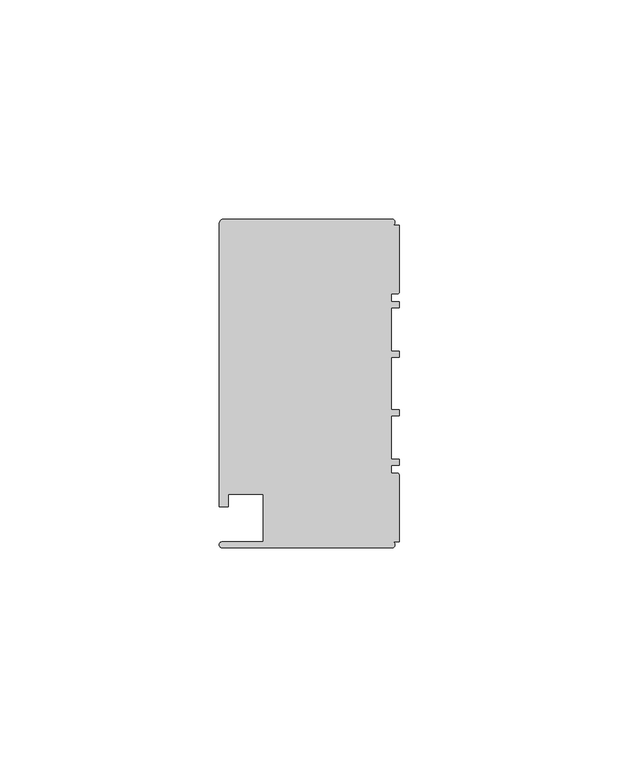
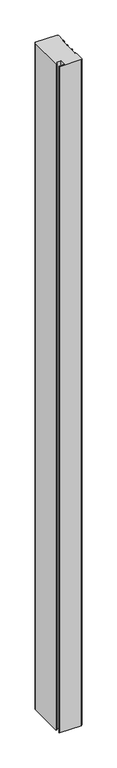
"""IFC4 building model written with IfcOpenShell, lengths in millimetres: member geometry, Прямоугольный импост : 1-AMG-1-Профиль 40Х75 Верх П."""

import ifcopenshell
import ifcopenshell.guid

model = None  # the IFC model being written
_history = None  # IfcOwnerHistory: only IFC2X3 demands one
_inside = {}  # id of a spatial element -> (the spatial element, [elements in it])
_under = {}  # id of a project, library or spatial element -> (it, [spatial elements below it])
_declared = {}  # id of a project -> (the project, [libraries it declares])
_typed = {}  # id of a type object -> (the type object, [elements of that type])
_made_of = {}  # id of a material, layer set ... -> (it, [elements and type objects made of it])


def new_model(schema):
    """Start an empty IFC model of exactly this schema.

    Asked for "IFC4X3", IfcOpenShell would pick the latest addendum, in which some entities
    have other attributes; the version numbers below select the first issue.
    IFC2X3 requires an IfcOwnerHistory on every rooted entity: one is made here for all.
    """
    global model, _history
    if schema == "IFC4X3":
        model = ifcopenshell.file(schema_version=(4, 3, 0, 0))
    else:
        model = ifcopenshell.file(schema=schema)
    _inside.clear()
    _under.clear()
    _declared.clear()
    _typed.clear()
    _made_of.clear()
    _history = None
    if model.schema == "IFC2X3":
        org = make("IfcOrganization", Name="unknown")
        user = make(
            "IfcPersonAndOrganization",
            ThePerson=make("IfcPerson", FamilyName="unknown"),
            TheOrganization=org,
        )
        app = make(
            "IfcApplication",
            ApplicationDeveloper=org,
            Version="unknown",
            ApplicationFullName="unknown",
            ApplicationIdentifier="unknown",
        )
        _history = make(
            "IfcOwnerHistory",
            OwningUser=user,
            OwningApplication=app,
            ChangeAction="ADDED",
            CreationDate=0,
        )
    return model


def make(cls, **values):
    """One entity of the class cls with the attributes given. An attribute that is None is left unset."""
    return model.create_entity(
        cls, **{name: value for name, value in values.items() if value is not None}
    )


def rooted(cls, **values):
    """An entity with a GlobalId (a new one), such as an element, a storey or a relation."""
    return make(cls, GlobalId=ifcopenshell.guid.new(), OwnerHistory=_history, **values)


def si_unit(unit_type, name, prefix=None):
    """IfcSIUnit, for example si_unit("LENGTHUNIT", "METRE", prefix="MILLI")."""
    return make("IfcSIUnit", UnitType=unit_type, Prefix=prefix, Name=name)


def assignment(units):
    """IfcUnitAssignment: the units of a project."""
    return None if units is None else make("IfcUnitAssignment", Units=units)


def point(xyz):
    """IfcCartesianPoint."""
    return None if xyz is None else make("IfcCartesianPoint", Coordinates=xyz)


def direction(xyz):
    """IfcDirection."""
    return None if xyz is None else make("IfcDirection", DirectionRatios=xyz)


def frame(location, z_axis=None, x_axis=None):
    """IfcAxis2Placement3D, a coordinate frame: its origin and axes. An axis left out is left unset."""
    return make(
        "IfcAxis2Placement3D",
        Location=point(location),
        Axis=direction(z_axis),
        RefDirection=direction(x_axis),
    )


def frame_2d(location, x_axis=None):
    """IfcAxis2Placement2D, a coordinate frame in the plane: its origin and x axis."""
    return make(
        "IfcAxis2Placement2D", Location=point(location), RefDirection=direction(x_axis)
    )


def origin():
    """The frame at (0, 0, 0) with its axes left unset."""
    return frame((0.0, 0.0, 0.0))


def place(relative_to, where):
    """IfcLocalPlacement: puts the frame where relative to a parent placement (None: the world)."""
    return make(
        "IfcLocalPlacement", PlacementRelTo=relative_to, RelativePlacement=where
    )


def context(
    kind, dimensions, precision=None, world=None, true_north=None, identifier=None
):
    """IfcGeometricRepresentationContext, for example the 3D "Model" context."""
    return make(
        "IfcGeometricRepresentationContext",
        ContextIdentifier=identifier,
        ContextType=kind,
        CoordinateSpaceDimension=dimensions,
        Precision=precision,
        WorldCoordinateSystem=world,
        TrueNorth=true_north,
    )


def project(units=None, contexts=None):
    """IfcProject with its units and contexts."""
    return rooted(
        "IfcProject",
        Name="project",
        RepresentationContexts=contexts,
        UnitsInContext=assignment(units),
    )


def spatial(cls, under=None, at=None, **own):
    """A site, building, storey or space (cls), placed at a placement, below another one or the project."""
    s = rooted(cls, ObjectPlacement=at, **own)
    if under is not None:
        _under.setdefault(under.id(), (under, []))[1].append(s)
    return s


def polyline(points):
    """IfcPolyline through the points."""
    return make("IfcPolyline", Points=[point(p) for p in points])


def circle_curve(where, radius):
    """IfcCircle in the frame where."""
    return make("IfcCircle", Position=where, Radius=radius)


def trimmed(basis, trim1, trim2, sense, master):
    """IfcTrimmedCurve: the piece of a basis curve between two trims."""
    return make(
        "IfcTrimmedCurve",
        BasisCurve=basis,
        Trim1=trim1,
        Trim2=trim2,
        SenseAgreement=sense,
        MasterRepresentation=master,
    )


def segment(curve, same_sense, transition):
    """IfcCompositeCurveSegment."""
    return make(
        "IfcCompositeCurveSegment",
        Transition=transition,
        SameSense=same_sense,
        ParentCurve=curve,
    )


def composite_curve(segments, self_intersect=None):
    """IfcCompositeCurve: segments joined end to end."""
    return make("IfcCompositeCurve", Segments=segments, SelfIntersect=self_intersect)


def outline(outer, holes=None, kind="AREA"):
    """IfcArbitraryClosedProfileDef: a profile drawn as a closed curve; with holes, ...WithVoids."""
    if holes is None:
        return make("IfcArbitraryClosedProfileDef", ProfileType=kind, OuterCurve=outer)
    return make(
        "IfcArbitraryProfileDefWithVoids",
        ProfileType=kind,
        OuterCurve=outer,
        InnerCurves=holes,
    )


def extrude(swept, where, along, depth):
    """IfcExtrudedAreaSolid: the profile swept, set in the frame where, extruded along a direction by depth."""
    return make(
        "IfcExtrudedAreaSolid",
        SweptArea=swept,
        Position=where,
        ExtrudedDirection=direction(along),
        Depth=depth,
    )


def shape(context_of_items, identifier, shape_type, items):
    """IfcShapeRepresentation: the items that make up one representation, for example the "Body"."""
    return make(
        "IfcShapeRepresentation",
        ContextOfItems=context_of_items,
        RepresentationIdentifier=identifier,
        RepresentationType=shape_type,
        Items=items,
    )


def source(mapping_origin, context_of_items, identifier, shape_type, items):
    """IfcRepresentationMap: a shape defined once, which mapped items show again and again."""
    return make(
        "IfcRepresentationMap",
        MappingOrigin=mapping_origin,
        MappedRepresentation=shape(context_of_items, identifier, shape_type, items),
    )


def transform(
    local_origin,
    x_axis=None,
    y_axis=None,
    z_axis=None,
    scale=None,
    scale2=None,
    scale3=None,
    uniform=True,
):
    """IfcCartesianTransformationOperator3D, or its non-uniform kind. x_axis, y_axis, z_axis: its Axis1, 2, 3."""
    if uniform:
        return make(
            "IfcCartesianTransformationOperator3D",
            Axis1=direction(x_axis),
            Axis2=direction(y_axis),
            LocalOrigin=point(local_origin),
            Scale=scale,
            Axis3=direction(z_axis),
        )
    return make(
        "IfcCartesianTransformationOperator3DnonUniform",
        Axis1=direction(x_axis),
        Axis2=direction(y_axis),
        LocalOrigin=point(local_origin),
        Scale=scale,
        Axis3=direction(z_axis),
        Scale2=scale2,
        Scale3=scale3,
    )


def mapped(mapping_source, mapping_target):
    """IfcMappedItem: shows the shape of a source again, moved by a transform."""
    return make(
        "IfcMappedItem", MappingSource=mapping_source, MappingTarget=mapping_target
    )


def made_of(thing, what):
    """Note that an element or type object is made of a material, layer set ...; save() writes the relation."""
    if what is not None:
        _made_of.setdefault(what.id(), (what, []))[1].append(thing)
    return thing


def element(
    cls,
    number,
    at=None,
    inside=None,
    cuts=None,
    type_object=None,
    material=None,
    context=None,
    identifier="Body",
    shape_type=None,
    held_by="IfcProductDefinitionShape",
    body=None,
    shapes=None,
    **own,
):
    """One element of the class cls, such as IfcWall. Its Tag is "e" and its number.

    at: its placement. inside: the storey or other place that contains it. cuts: it is an
    opening in that element (IfcRelVoidsElement). A single representation is given by context,
    identifier, shape_type and body (its items); several are given by shapes. held_by: the class
    of the entity that holds the representations. save() writes the other relations.
    """
    e = rooted(cls, Tag="e%d" % number, ObjectPlacement=at, **own)
    if body is not None:
        shapes = [shape(context, identifier, shape_type, body)]
    if shapes is not None:
        e.Representation = make(held_by, Representations=shapes)
    if inside is not None:
        _inside.setdefault(inside.id(), (inside, []))[1].append(e)
    if cuts is not None:
        rooted(
            "IfcRelVoidsElement", RelatingBuildingElement=cuts, RelatedOpeningElement=e
        )
    if type_object is not None:
        _typed.setdefault(type_object.id(), (type_object, []))[1].append(e)
    return made_of(e, material)


def aggregate(whole, parts):
    """IfcRelAggregates: a whole, such as a stair, and the parts it consists of."""
    return rooted("IfcRelAggregates", RelatingObject=whole, RelatedObjects=parts)


def save(model, path):
    """Write the relations noted so far, then the file.

    IfcRelAggregates (storeys below a building ...), IfcRelContainedInSpatialStructure (elements
    in a storey), IfcRelDefinesByType, IfcRelAssociatesMaterial and IfcRelDeclares: one each for
    every whole, place, type object, material and project.
    """
    for whole, parts in _under.values():
        aggregate(whole, parts)
    for where, things in _inside.values():
        rooted(
            "IfcRelContainedInSpatialStructure",
            RelatedElements=things,
            RelatingStructure=where,
        )
    for kind, things in _typed.values():
        rooted("IfcRelDefinesByType", RelatedObjects=things, RelatingType=kind)
    for what, things in _made_of.values():
        rooted("IfcRelAssociatesMaterial", RelatedObjects=things, RelatingMaterial=what)
    for by, libraries in _declared.values():
        rooted("IfcRelDeclares", RelatingContext=by, RelatedDefinitions=libraries)
    model.write(path)


def member_48ac1711(model_context):
    return source(origin(), model_context, "Body", "SweptSolid", [
        extrude(outline(composite_curve([segment(polyline([(-1.7, -37.5), (-40.4, -37.5)]), True, "CONTINUOUS"), segment(trimmed(circle_curve(frame_2d((-40.4, -36.8)), 0.7), [point((-40.4, -37.5))], [point((-40.4, -36.1))], False, "CARTESIAN"), True, "CONTINUOUS"), segment(polyline([(-40.4, -36.1), (-31.0, -36.1), (-31.0, -25.25), (-39.0, -25.25), (-39.0, -28.1), (-41.1, -28.1), (-41.1, 36.1)]), True, "CONTINUOUS"), segment(trimmed(circle_curve(frame_2d((-39.7541527, 36.3020763)), 1.3609334), [point((-41.1, 36.1))], [point((-40.4, 37.5))], False, "CARTESIAN"), True, "CONTINUOUS"), segment(polyline([(-40.4, 37.5), (-1.7, 37.5)]), True, "CONTINUOUS"), segment(trimmed(circle_curve(frame_2d((-1.7, 36.8)), 0.7), [point((-1.7, 37.5))], [point((-1.7, 36.1))], False, "CARTESIAN"), True, "CONTINUOUS"), segment(polyline([(-1.7, 36.1), (0.0, 36.1), (0.0, 20.95)]), True, "CONTINUOUS"), segment(trimmed(circle_curve(frame_2d((-0.5, 20.95)), 0.5), [point((0.0, 20.95))], [point((-0.5, 20.45))], False, "CARTESIAN"), True, "CONTINUOUS"), segment(polyline([(-0.5, 20.45), (-1.8, 20.45), (-1.8, 18.65), (0.0, 18.65), (0.0, 17.25), (-1.8, 17.25), (-1.8, 7.4), (0.0, 7.4), (0.0, 6.0), (-1.8, 6.0), (-1.8, -6.0), (0.0, -6.0), (0.0, -7.4), (-1.8, -7.4), (-1.8, -17.25), (0.0, -17.25), (0.0, -18.65), (-1.8, -18.65), (-1.8, -20.45), (-0.5, -20.45)]), True, "CONTINUOUS"), segment(trimmed(circle_curve(frame_2d((-0.5, -20.95)), 0.5), [point((-0.5, -20.45))], [point((0.0, -20.95))], False, "CARTESIAN"), True, "CONTINUOUS"), segment(polyline([(0.0, -20.95), (0.0, -36.1), (-1.7, -36.1)]), True, "CONTINUOUS"), segment(trimmed(circle_curve(frame_2d((-1.7, -36.8)), 0.7), [point((-1.7, -36.1))], [point((-1.7, -37.5))], False, "CARTESIAN"), True, "CONTINUOUS")], self_intersect=False)), frame((0.0, 0.0, -1250.0), z_axis=(0.0, 0.0, 1.0), x_axis=(1.0, 0.0, 0.0)), (0.0, 0.0, 1.0), 1250.0),
    ])


if __name__ == "__main__":
    model = new_model("IFC4")
    model_context = context("Model", 3, world=origin())
    ifc_project = project(units=[si_unit("LENGTHUNIT", "METRE", prefix="MILLI")], contexts=[model_context])
    site = spatial("IfcSite", under=ifc_project)
    building = spatial("IfcBuilding", under=site)
    placement = place(None, origin())
    member_shape = member_48ac1711(model_context)
    element("IfcMember", 1, ObjectType="Прямоугольный импост : 1-AMG-1-Профиль 40Х75 Верх П", at=placement, inside=building, context=model_context, shape_type="MappedRepresentation", body=[
        mapped(member_shape, transform((0.0, 0.0, 0.0), x_axis=(1.0, 0.0, 0.0), y_axis=(0.0, 1.0, 0.0), z_axis=(0.0, 0.0, 1.0))),
    ])
    save(model, "model.ifc")
